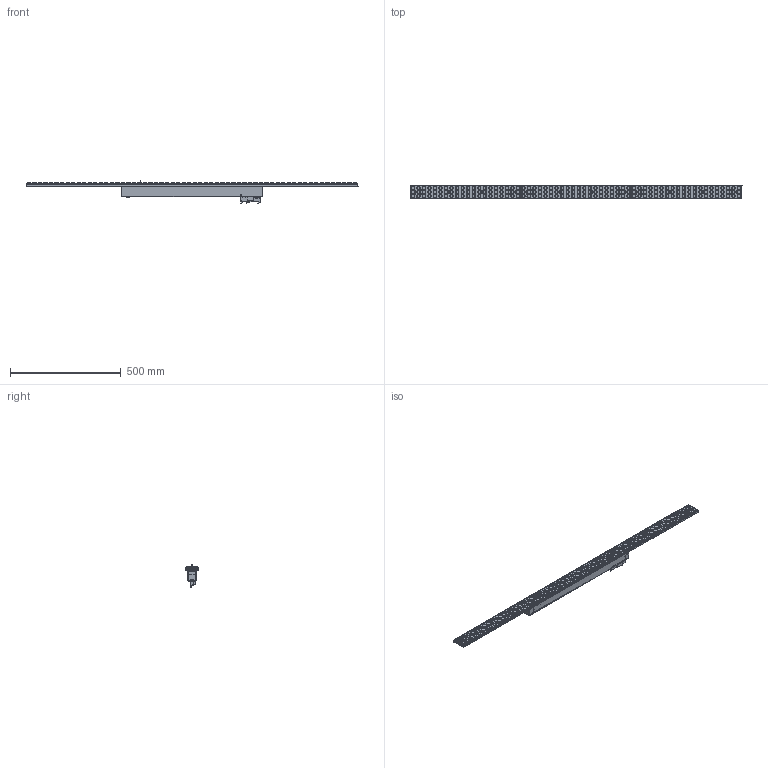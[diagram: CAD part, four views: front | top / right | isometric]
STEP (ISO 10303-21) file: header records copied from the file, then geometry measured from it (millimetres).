
FILE_DESCRIPTION(/* description */ (''),/* implementation_level */ '2;1');
FILE_NAME(/* name */ 'SOTTILE_TRACK_GDO_SST15.stp',/* time_stamp */ '2025-09-29T10:34:40+02:00',/* author */ ('gian.noche'),/* organization */ (''),/* preprocessor_version */ 'ST-DEVELOPER v19.2',/* originating_system */ 'Autodesk Inventor 2023',/* authorisation */ '');
FILE_SCHEMA (('AUTOMOTIVE_DESIGN { 1 0 10303 214 3 1 1 }'));
Products named in the file (1): IDP_225_SOTTILE_TRACK_GDO_1500_Semplifica_1
Bounding box: 1500 x 62 x 102.24 mm (x, y, z)
Volume: 1050361.1 mm3; surface area: 810868.3 mm2
Topology: 2 solids, 2 shells, 1995 faces, 4993 edges, 3190 vertices
Faces by surface type: plane 1016, cylinder 645, torus 203, bspline 121, cone 10
Full cylindrical faces by diameter (mm): 3.9 x2, 4.4 x3, 4.5 x3, 5.6 x1, 8 x2, 10 x1, 11.5 x1, 15 x180, 16.5 x2, 23.319 x1, 32 x1
Entity records: 67787 total; most frequent: CARTESIAN_POINT 19263, DIRECTION 10473, ORIENTED_EDGE 9972, EDGE_CURVE 4986, AXIS2_PLACEMENT_3D 3838, VERTEX_POINT 3189, LINE 2797, VECTOR 2797
